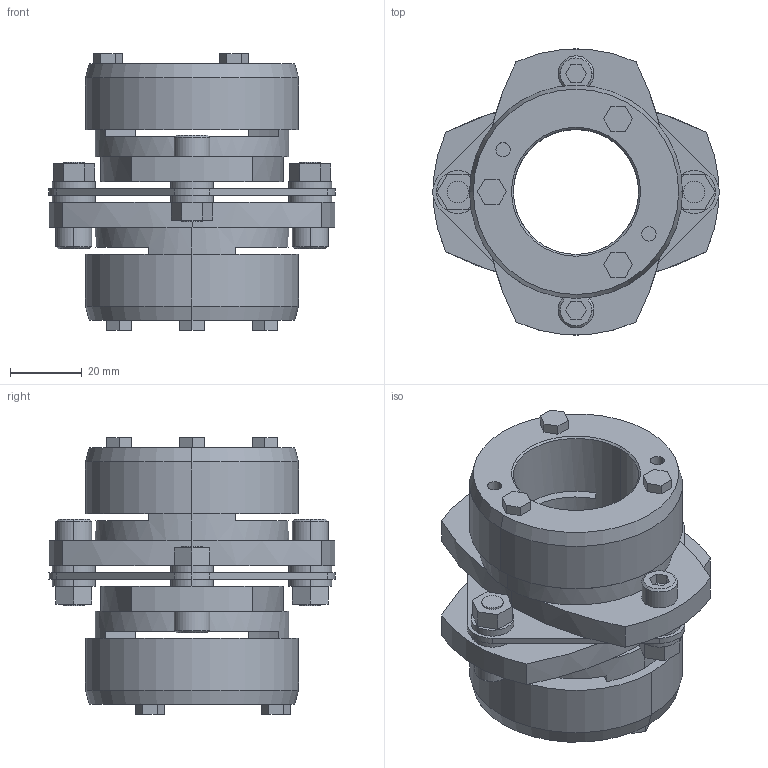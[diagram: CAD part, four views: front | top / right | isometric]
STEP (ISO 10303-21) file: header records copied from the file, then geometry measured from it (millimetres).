
FILE_DESCRIPTION((''),'2;1');
FILE_NAME('LCS-80T7-35×35.stp','2011-09-12T16:50:56',(''),(''),'AutoCAD STEP 2000i','AutoCAD 2000i',', , ');
FILE_SCHEMA(('CONFIG_CONTROL_DESIGN'));
Length unit declared in the file: millimetre
Products named in the file (14): LCS-80T7-35×35; 忣兜1; LC80T7-T035-1; LC80T7-T035; LC80T7-T032; LC80T7-T030; LC80T7-T028-1; LC80T7-T028; LC80T7-T024; LC80T7-T022; LC80T7-T019; LC80T7-T017-1; LC80T7-T017; LCS80-ITA
Assembly tree (13 placements, depth 2):
  LCS-80T7-35×35
    忣兜1
    LC80T7-T035-1
    LC80T7-T035
    LC80T7-T032
    LC80T7-T030
    LC80T7-T028-1
    LC80T7-T028
    LC80T7-T024
    LC80T7-T022
    LC80T7-T019
    LC80T7-T017-1
    LC80T7-T017
    LCS80-ITA
Bounding box: 80 x 79.95 x 77.35 mm (x, y, z)
Volume: 127824 mm3; surface area: 42354.4 mm2
Topology: 1 solids, 1 shells, 238 faces, 584 edges, 380 vertices
Faces by surface type: plane 138, cylinder 80, cone 20
Entity records: 7349 total; most frequent: DIRECTION 1300, CARTESIAN_POINT 1216, ORIENTED_EDGE 1168, EDGE_CURVE 584, AXIS2_PLACEMENT_3D 464, VERTEX_POINT 380, VECTOR 372, LINE 372
